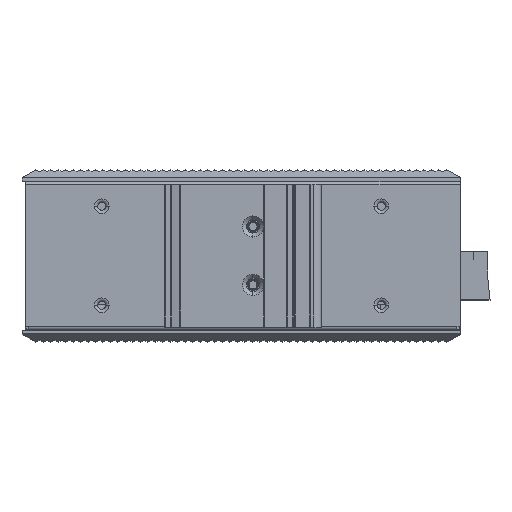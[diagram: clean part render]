
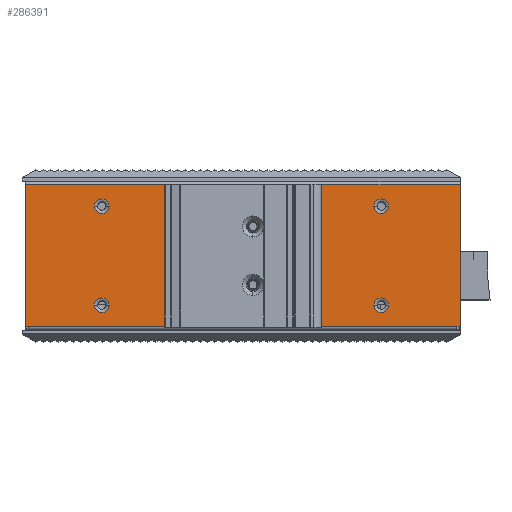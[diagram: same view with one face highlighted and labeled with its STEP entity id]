
A CAD part, top view. The second image highlights one B-rep face of the part: STEP entity #286391.
In plain terms, the highlighted planar face has unit normal (0, 0, 1).
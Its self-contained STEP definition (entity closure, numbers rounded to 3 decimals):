
#273304=DIRECTION('',(-1.,0.,0.));
#273305=VECTOR('',#273304,132.);
#273306=CARTESIAN_POINT('',(65.66,0.,46.3));
#273307=LINE('',#273306,#273305);
#273311=DIRECTION('',(1.,0.,0.));
#273312=VECTOR('',#273311,1.);
#273313=CARTESIAN_POINT('',(-67.34,0.,46.3));
#273314=LINE('',#273313,#273312);
#273318=DIRECTION('',(0.,-1.,0.));
#273319=VECTOR('',#273318,43.8);
#273320=CARTESIAN_POINT('',(-67.34,43.8,46.3));
#273321=LINE('',#273320,#273319);
#273325=DIRECTION('',(0.,1.,0.));
#273326=VECTOR('',#273325,43.8);
#273327=CARTESIAN_POINT('',(66.66,0.,46.3));
#273328=LINE('',#273327,#273326);
#273332=DIRECTION('',(1.,0.,0.));
#273333=VECTOR('',#273332,1.);
#273334=CARTESIAN_POINT('',(65.66,0.,46.3));
#273335=LINE('',#273334,#273333);
#273339=CARTESIAN_POINT('',(2.83,30.9,46.3));
#273340=DIRECTION('',(0.,0.,-1.));
#273341=DIRECTION('',(-1.,0.,0.));
#273342=AXIS2_PLACEMENT_3D('',#273339,#273340,#273341);
#273347=CARTESIAN_POINT('',(2.83,30.9,46.3));
#273348=DIRECTION('',(0.,0.,-1.));
#273349=DIRECTION('',(1.,0.,0.));
#273350=AXIS2_PLACEMENT_3D('',#273347,#273348,#273349);
#273355=CARTESIAN_POINT('',(2.83,12.9,46.3));
#273356=DIRECTION('',(0.,0.,-1.));
#273357=DIRECTION('',(-1.,0.,0.));
#273358=AXIS2_PLACEMENT_3D('',#273355,#273356,#273357);
#273363=CARTESIAN_POINT('',(2.83,12.9,46.3));
#273364=DIRECTION('',(0.,0.,-1.));
#273365=DIRECTION('',(1.,0.,0.));
#273366=AXIS2_PLACEMENT_3D('',#273363,#273364,#273365);
#273371=CARTESIAN_POINT('',(42.36,6.65,46.3));
#273372=DIRECTION('',(0.,0.,-1.));
#273373=DIRECTION('',(1.,0.,0.));
#273374=AXIS2_PLACEMENT_3D('',#273371,#273372,#273373);
#273379=CARTESIAN_POINT('',(42.36,6.65,46.3));
#273380=DIRECTION('',(0.,0.,-1.));
#273381=DIRECTION('',(-1.,0.,0.));
#273382=AXIS2_PLACEMENT_3D('',#273379,#273380,#273381);
#273387=CARTESIAN_POINT('',(42.36,37.15,46.3));
#273388=DIRECTION('',(0.,0.,-1.));
#273389=DIRECTION('',(1.,0.,0.));
#273390=AXIS2_PLACEMENT_3D('',#273387,#273388,#273389);
#273395=CARTESIAN_POINT('',(42.36,37.15,46.3));
#273396=DIRECTION('',(0.,0.,-1.));
#273397=DIRECTION('',(-1.,0.,0.));
#273398=AXIS2_PLACEMENT_3D('',#273395,#273396,#273397);
#273403=CARTESIAN_POINT('',(-43.78,6.65,46.3));
#273404=DIRECTION('',(0.,0.,-1.));
#273405=DIRECTION('',(1.,0.,0.));
#273406=AXIS2_PLACEMENT_3D('',#273403,#273404,#273405);
#273411=CARTESIAN_POINT('',(-43.78,6.65,46.3));
#273412=DIRECTION('',(0.,0.,-1.));
#273413=DIRECTION('',(-1.,0.,0.));
#273414=AXIS2_PLACEMENT_3D('',#273411,#273412,#273413);
#273419=CARTESIAN_POINT('',(-43.78,37.15,46.3));
#273420=DIRECTION('',(0.,0.,-1.));
#273421=DIRECTION('',(1.,0.,0.));
#273422=AXIS2_PLACEMENT_3D('',#273419,#273420,#273421);
#273427=CARTESIAN_POINT('',(-43.78,37.15,46.3));
#273428=DIRECTION('',(0.,0.,-1.));
#273429=DIRECTION('',(-1.,0.,0.));
#273430=AXIS2_PLACEMENT_3D('',#273427,#273428,#273429);
#273534=DIRECTION('',(-1.,0.,0.));
#273535=VECTOR('',#273534,134.);
#273536=CARTESIAN_POINT('',(66.66,43.8,46.3));
#273537=LINE('',#273536,#273535);
#275101=CARTESIAN_POINT('',(66.66,0.,46.3));
#275103=VERTEX_POINT('',#275101);
#275104=CARTESIAN_POINT('',(65.66,0.,46.3));
#275105=VERTEX_POINT('',#275104);
#275107=CARTESIAN_POINT('',(-67.34,0.,46.3));
#275109=VERTEX_POINT('',#275107);
#275110=CARTESIAN_POINT('',(-66.34,0.,46.3));
#275111=VERTEX_POINT('',#275110);
#275128=CARTESIAN_POINT('',(66.66,43.8,46.3));
#275129=CARTESIAN_POINT('',(-67.34,43.8,46.3));
#275130=VERTEX_POINT('',#275128);
#275131=VERTEX_POINT('',#275129);
#275166=CARTESIAN_POINT('',(1.58,30.9,46.3));
#275167=CARTESIAN_POINT('',(4.08,30.9,46.3));
#275168=VERTEX_POINT('',#275166);
#275169=VERTEX_POINT('',#275167);
#275174=CARTESIAN_POINT('',(1.58,12.9,46.3));
#275175=CARTESIAN_POINT('',(4.08,12.9,46.3));
#275176=VERTEX_POINT('',#275174);
#275177=VERTEX_POINT('',#275175);
#276722=CARTESIAN_POINT('',(44.61,6.65,46.3));
#276723=CARTESIAN_POINT('',(40.11,6.65,46.3));
#276724=VERTEX_POINT('',#276722);
#276725=VERTEX_POINT('',#276723);
#276742=CARTESIAN_POINT('',(44.61,37.15,46.3));
#276743=CARTESIAN_POINT('',(40.11,37.15,46.3));
#276744=VERTEX_POINT('',#276742);
#276745=VERTEX_POINT('',#276743);
#276762=CARTESIAN_POINT('',(-41.53,6.65,46.3));
#276763=CARTESIAN_POINT('',(-46.03,6.65,46.3));
#276764=VERTEX_POINT('',#276762);
#276765=VERTEX_POINT('',#276763);
#276782=CARTESIAN_POINT('',(-41.53,37.15,46.3));
#276783=CARTESIAN_POINT('',(-46.03,37.15,46.3));
#276784=VERTEX_POINT('',#276782);
#276785=VERTEX_POINT('',#276783);
#286339=CARTESIAN_POINT('',(-66.34,0.,46.3));
#286340=DIRECTION('',(0.,0.,-1.));
#286341=DIRECTION('',(-1.,0.,0.));
#286342=AXIS2_PLACEMENT_3D('',#286339,#286340,#286341);
#286343=PLANE('',#286342);
#286344=ORIENTED_EDGE('',*,*,#286320,.T.);
#286345=ORIENTED_EDGE('',*,*,#285360,.F.);
#286347=ORIENTED_EDGE('',*,*,#286346,.F.);
#286349=ORIENTED_EDGE('',*,*,#286348,.F.);
#286351=ORIENTED_EDGE('',*,*,#286350,.F.);
#286352=ORIENTED_EDGE('',*,*,#285438,.F.);
#286353=EDGE_LOOP('',(#286344,#286345,#286347,#286349,#286351,#286352));
#286354=FACE_OUTER_BOUND('',#286353,.F.);
#286356=ORIENTED_EDGE('',*,*,#286355,.F.);
#286358=ORIENTED_EDGE('',*,*,#286357,.F.);
#286359=EDGE_LOOP('',(#286356,#286358));
#286360=FACE_BOUND('',#286359,.F.);
#286362=ORIENTED_EDGE('',*,*,#286361,.F.);
#286364=ORIENTED_EDGE('',*,*,#286363,.F.);
#286365=EDGE_LOOP('',(#286362,#286364));
#286366=FACE_BOUND('',#286365,.F.);
#286368=ORIENTED_EDGE('',*,*,#286367,.F.);
#286370=ORIENTED_EDGE('',*,*,#286369,.F.);
#286371=EDGE_LOOP('',(#286368,#286370));
#286372=FACE_BOUND('',#286371,.F.);
#286374=ORIENTED_EDGE('',*,*,#286373,.F.);
#286376=ORIENTED_EDGE('',*,*,#286375,.F.);
#286377=EDGE_LOOP('',(#286374,#286376));
#286378=FACE_BOUND('',#286377,.F.);
#286380=ORIENTED_EDGE('',*,*,#286379,.F.);
#286382=ORIENTED_EDGE('',*,*,#286381,.F.);
#286383=EDGE_LOOP('',(#286380,#286382));
#286384=FACE_BOUND('',#286383,.F.);
#286386=ORIENTED_EDGE('',*,*,#286385,.F.);
#286388=ORIENTED_EDGE('',*,*,#286387,.F.);
#286389=EDGE_LOOP('',(#286386,#286388));
#286390=FACE_BOUND('',#286389,.F.);
#273343=CIRCLE('',#273342,1.25);
#273351=CIRCLE('',#273350,1.25);
#273359=CIRCLE('',#273358,1.25);
#273367=CIRCLE('',#273366,1.25);
#273375=CIRCLE('',#273374,2.25);
#273383=CIRCLE('',#273382,2.25);
#273391=CIRCLE('',#273390,2.25);
#273399=CIRCLE('',#273398,2.25);
#273407=CIRCLE('',#273406,2.25);
#273415=CIRCLE('',#273414,2.25);
#273423=CIRCLE('',#273422,2.25);
#273431=CIRCLE('',#273430,2.25);
#285360=EDGE_CURVE('',#275109,#275111,#273314,.T.);
#285438=EDGE_CURVE('',#275105,#275103,#273335,.T.);
#286320=EDGE_CURVE('',#275105,#275111,#273307,.T.);
#286346=EDGE_CURVE('',#275131,#275109,#273321,.T.);
#286348=EDGE_CURVE('',#275130,#275131,#273537,.T.);
#286350=EDGE_CURVE('',#275103,#275130,#273328,.T.);
#286355=EDGE_CURVE('',#275168,#275169,#273343,.T.);
#286357=EDGE_CURVE('',#275169,#275168,#273351,.T.);
#286361=EDGE_CURVE('',#275176,#275177,#273359,.T.);
#286363=EDGE_CURVE('',#275177,#275176,#273367,.T.);
#286367=EDGE_CURVE('',#276724,#276725,#273375,.T.);
#286369=EDGE_CURVE('',#276725,#276724,#273383,.T.);
#286373=EDGE_CURVE('',#276744,#276745,#273391,.T.);
#286375=EDGE_CURVE('',#276745,#276744,#273399,.T.);
#286379=EDGE_CURVE('',#276764,#276765,#273407,.T.);
#286381=EDGE_CURVE('',#276765,#276764,#273415,.T.);
#286385=EDGE_CURVE('',#276784,#276785,#273423,.T.);
#286387=EDGE_CURVE('',#276785,#276784,#273431,.T.);
#286391=ADVANCED_FACE('',(#286354,#286360,#286366,#286372,#286378,#286384,
#286390),#286343,.F.);
